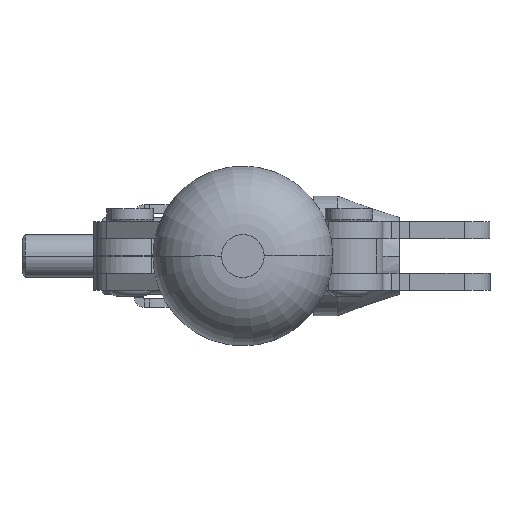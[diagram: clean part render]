
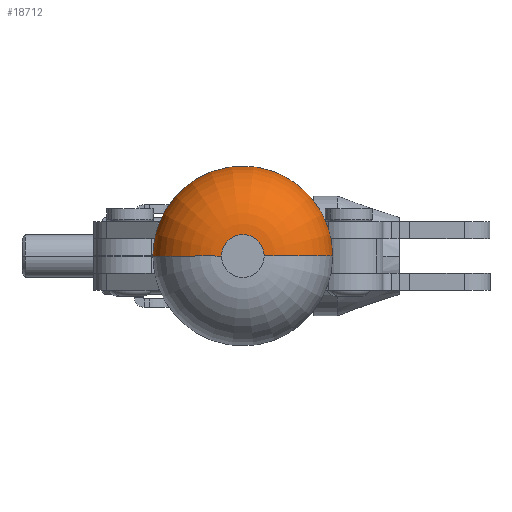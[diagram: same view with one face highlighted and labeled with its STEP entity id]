
A CAD part, left-side view. The second image highlights one B-rep face of the part: STEP entity #18712.
In plain terms, the highlighted toroidal (fillet/blend) face has major radius 2.495 mm and minor radius 8 mm.
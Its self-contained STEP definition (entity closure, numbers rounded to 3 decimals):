
#147 = VERTEX_POINT ( 'NONE', #21523 ) ;
#839 = AXIS2_PLACEMENT_3D ( 'NONE', #18608, #9082, #16906 ) ;
#881 = EDGE_CURVE ( 'NONE', #2430, #147, #19918, .T. ) ;
#1056 = EDGE_CURVE ( 'NONE', #147, #4235, #8220, .T. ) ;
#2430 = VERTEX_POINT ( 'NONE', #21419 ) ;
#3249 = CARTESIAN_POINT ( 'NONE',  ( 0., 0., 0. ) ) ;
#3565 = DIRECTION ( 'NONE',  ( 0., 0., 1. ) ) ;
#3578 = DIRECTION ( 'NONE',  ( 0., -1., 0. ) ) ;
#3944 = AXIS2_PLACEMENT_3D ( 'NONE', #3249, #4385, #11837 ) ;
#4235 = VERTEX_POINT ( 'NONE', #13463 ) ;
#4364 = CARTESIAN_POINT ( 'NONE',  ( 0., 0., 8. ) ) ;
#4385 = DIRECTION ( 'NONE',  ( 0., 0., -1. ) ) ;
#6294 = CARTESIAN_POINT ( 'NONE',  ( 10.491, 0., 8.251 ) ) ;
#7291 = EDGE_CURVE ( 'NONE', #4235, #17638, #14229, .T. ) ;
#7480 = EDGE_LOOP ( 'NONE', ( #8288, #16895, #9698, #21833 ) ) ;
#8220 = CIRCLE ( 'NONE', #839, 8. ) ;
#8288 = ORIENTED_EDGE ( 'NONE', *, *, #1056, .F. ) ;
#9082 = DIRECTION ( 'NONE',  ( 0., 1., 0. ) ) ;
#9698 = ORIENTED_EDGE ( 'NONE', *, *, #17768, .T. ) ;
#9923 = CARTESIAN_POINT ( 'NONE',  ( 0., 0., 8.251 ) ) ;
#11018 = DIRECTION ( 'NONE',  ( 0., 0., -1. ) ) ;
#11530 = DIRECTION ( 'NONE',  ( 1., 0., 0. ) ) ;
#11837 = DIRECTION ( 'NONE',  ( 1., 0., 0. ) ) ;
#13198 = DIRECTION ( 'NONE',  ( 1., 0., 0. ) ) ;
#13463 = CARTESIAN_POINT ( 'NONE',  ( -10.491, 0., 8.251 ) ) ;
#13567 = AXIS2_PLACEMENT_3D ( 'NONE', #4364, #3565, #13198 ) ;
#14229 = CIRCLE ( 'NONE', #18525, 10.491 ) ;
#16644 = CIRCLE ( 'NONE', #22461, 8. ) ;
#16738 = FACE_OUTER_BOUND ( 'NONE', #7480, .T. ) ;
#16895 = ORIENTED_EDGE ( 'NONE', *, *, #881, .F. ) ;
#16906 = DIRECTION ( 'NONE',  ( -1., 0., 0. ) ) ;
#17386 = DIRECTION ( 'NONE',  ( 0., 0., 1. ) ) ;
#17638 = VERTEX_POINT ( 'NONE', #6294 ) ;
#17768 = EDGE_CURVE ( 'NONE', #2430, #17638, #16644, .T. ) ;
#18236 = TOROIDAL_SURFACE ( 'NONE', #13567, 2.495, 8. ) ;
#18525 = AXIS2_PLACEMENT_3D ( 'NONE', #9923, #17386, #11530 ) ;
#18608 = CARTESIAN_POINT ( 'NONE',  ( -2.495, 0., 8. ) ) ;
#18712 = ADVANCED_FACE ( 'NONE', ( #16738 ), #18236, .T. ) ;
#19918 = CIRCLE ( 'NONE', #3944, 2.495 ) ;
#21419 = CARTESIAN_POINT ( 'NONE',  ( 2.495, 0., 0. ) ) ;
#21523 = CARTESIAN_POINT ( 'NONE',  ( -2.495, 0., 0. ) ) ;
#21833 = ORIENTED_EDGE ( 'NONE', *, *, #7291, .F. ) ;
#22461 = AXIS2_PLACEMENT_3D ( 'NONE', #24063, #3578, #11018 ) ;
#24063 = CARTESIAN_POINT ( 'NONE',  ( 2.495, 0., 8. ) ) ;
